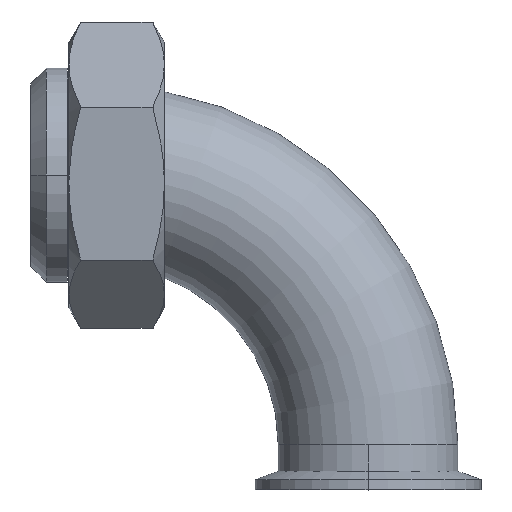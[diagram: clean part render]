
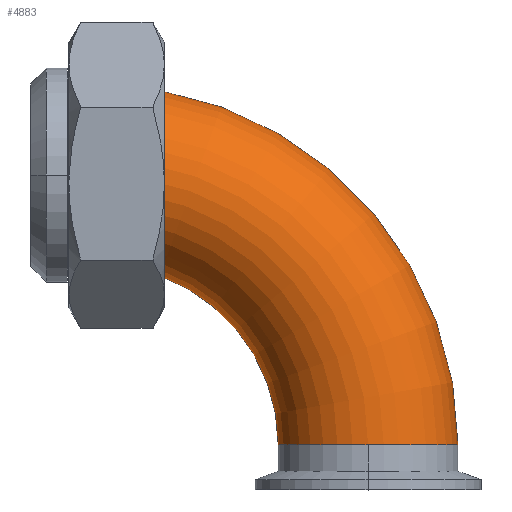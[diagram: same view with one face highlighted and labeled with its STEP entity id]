
A CAD part, top view. The second image highlights one B-rep face of the part: STEP entity #4883.
In plain terms, the highlighted toroidal (fillet/blend) face has major radius 76.2 mm and minor radius 25.4 mm.
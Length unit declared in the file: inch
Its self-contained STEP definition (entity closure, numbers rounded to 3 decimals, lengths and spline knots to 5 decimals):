
#8 = CARTESIAN_POINT ( 'NONE',  ( 0., 4., 0. ) ) ;
#302 = DIRECTION ( 'NONE',  ( 0., 0., -1. ) ) ;
#964 = CIRCLE ( 'NONE', #6302, 4. ) ;
#1052 = CARTESIAN_POINT ( 'NONE',  ( 3., 0., 0. ) ) ;
#1226 = VERTEX_POINT ( 'NONE', #5951 ) ;
#1261 = AXIS2_PLACEMENT_3D ( 'NONE', #2945, #302, #6494 ) ;
#1300 = AXIS2_PLACEMENT_3D ( 'NONE', #1052, #4661, #1580 ) ;
#1580 = DIRECTION ( 'NONE',  ( 0., 0., 1. ) ) ;
#2261 = VERTEX_POINT ( 'NONE', #8 ) ;
#2810 = DIRECTION ( 'NONE',  ( -1., 0., 0. ) ) ;
#2812 = EDGE_CURVE ( 'NONE', #1226, #6426, #5042, .T. ) ;
#2883 = CARTESIAN_POINT ( 'NONE',  ( 0., 0., 0. ) ) ;
#2911 = DIRECTION ( 'NONE',  ( 0., 0., -1. ) ) ;
#2945 = CARTESIAN_POINT ( 'NONE',  ( 0., 0., 0. ) ) ;
#3405 = DIRECTION ( 'NONE',  ( -1., 0., 0. ) ) ;
#3746 = ORIENTED_EDGE ( 'NONE', *, *, #5401, .T. ) ;
#3839 = EDGE_LOOP ( 'NONE', ( #4688, #5261, #3746, #5230 ) ) ;
#3961 = CARTESIAN_POINT ( 'NONE',  ( 4., 0., 0. ) ) ;
#3996 = CIRCLE ( 'NONE', #4606, 2. ) ;
#4396 = TOROIDAL_SURFACE ( 'NONE', #1261, 3., 1. ) ;
#4456 = CIRCLE ( 'NONE', #6085, 1. ) ;
#4471 = CARTESIAN_POINT ( 'NONE',  ( 0., 2., 0. ) ) ;
#4606 = AXIS2_PLACEMENT_3D ( 'NONE', #2883, #6434, #3405 ) ;
#4661 = DIRECTION ( 'NONE',  ( 0., 1., 0. ) ) ;
#4688 = ORIENTED_EDGE ( 'NONE', *, *, #6399, .F. ) ;
#4883 = ADVANCED_FACE ( 'NONE', ( #6279 ), #4396, .T. ) ;
#5042 = CIRCLE ( 'NONE', #1300, 1. ) ;
#5230 = ORIENTED_EDGE ( 'NONE', *, *, #2812, .T. ) ;
#5261 = ORIENTED_EDGE ( 'NONE', *, *, #6243, .F. ) ;
#5401 = EDGE_CURVE ( 'NONE', #5979, #1226, #3996, .T. ) ;
#5867 = CARTESIAN_POINT ( 'NONE',  ( 0., 3., 0. ) ) ;
#5951 = CARTESIAN_POINT ( 'NONE',  ( 2., 0., 0. ) ) ;
#5967 = CARTESIAN_POINT ( 'NONE',  ( 0., 0., 0. ) ) ;
#5979 = VERTEX_POINT ( 'NONE', #4471 ) ;
#6085 = AXIS2_PLACEMENT_3D ( 'NONE', #5867, #2810, #6362 ) ;
#6243 = EDGE_CURVE ( 'NONE', #5979, #2261, #4456, .T. ) ;
#6279 = FACE_OUTER_BOUND ( 'NONE', #3839, .T. ) ;
#6302 = AXIS2_PLACEMENT_3D ( 'NONE', #5967, #2911, #6468 ) ;
#6362 = DIRECTION ( 'NONE',  ( 0., 0., 1. ) ) ;
#6399 = EDGE_CURVE ( 'NONE', #2261, #6426, #964, .T. ) ;
#6426 = VERTEX_POINT ( 'NONE', #3961 ) ;
#6434 = DIRECTION ( 'NONE',  ( 0., 0., -1. ) ) ;
#6468 = DIRECTION ( 'NONE',  ( -1., 0., 0. ) ) ;
#6494 = DIRECTION ( 'NONE',  ( -1., 0., 0. ) ) ;
